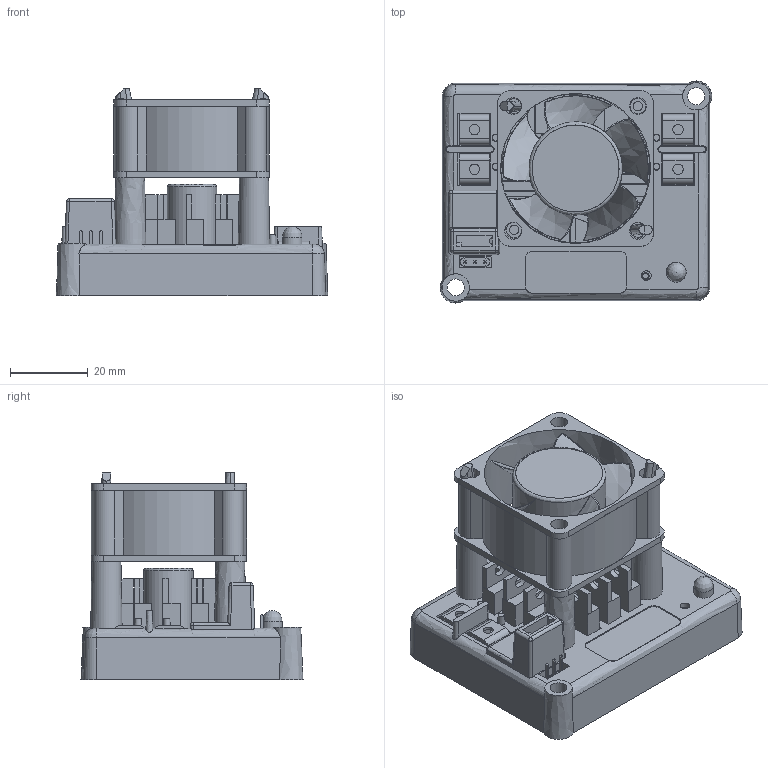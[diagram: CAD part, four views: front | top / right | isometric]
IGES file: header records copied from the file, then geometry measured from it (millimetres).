
Global section: file name: No Iges File Name specified; native system: AutoDesk Inventor R5.0; preprocessor: AutoDesk Inventor Iges Exporter R5.0; author: No Author specified; organization: No Organization specified; date: 20070115.203258; units: inch
Bounding box: 69.65 x 56.95 x 53.11 mm (x, y, z)
Surface area: 46082.6 mm2 (no closed solid volume)
Topology: 0 solids, 2 shells, 1117 faces, 5977 edges, 5944 vertices
Faces by surface type: plane 909, revolution 157, bspline 51
